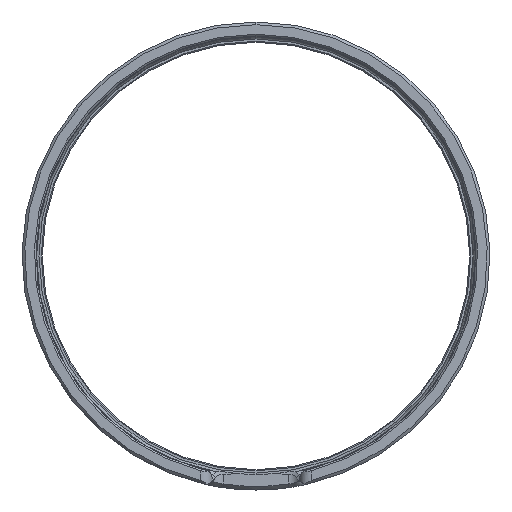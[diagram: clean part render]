
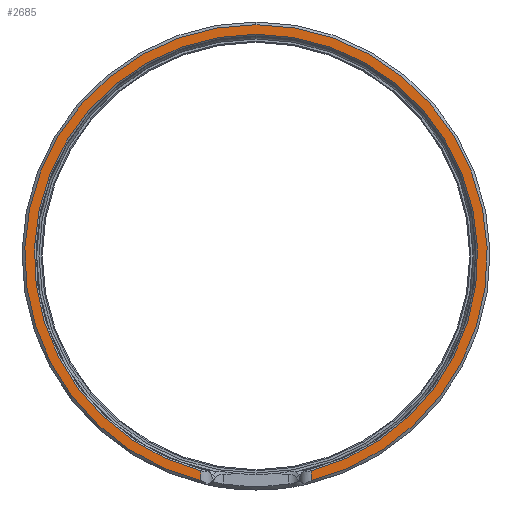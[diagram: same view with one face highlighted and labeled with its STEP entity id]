
A CAD part, left-side view. The second image highlights one B-rep face of the part: STEP entity #2685.
In plain terms, the highlighted planar face has unit normal (-1, 0, 0).
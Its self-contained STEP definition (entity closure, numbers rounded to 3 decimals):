
#24 = CARTESIAN_POINT ( 'NONE',  ( -150., 0., 0. ) ) ;
#515 = CARTESIAN_POINT ( 'NONE',  ( -150., 10.2, -39.685 ) ) ;
#768 = CARTESIAN_POINT ( 'NONE',  ( -150., 0., 42.75 ) ) ;
#899 = DIRECTION ( 'NONE',  ( -1., 0., 0. ) ) ;
#1110 = LINE ( 'NONE', #2440, #3625 ) ;
#1163 = EDGE_CURVE ( 'NONE', #3171, #3340, #1110, .T. ) ;
#1198 = EDGE_CURVE ( 'NONE', #5687, #5680, #5459, .T. ) ;
#1264 = DIRECTION ( 'NONE',  ( 0., 0., 1. ) ) ;
#1303 = DIRECTION ( 'NONE',  ( 0., 0., 1. ) ) ;
#1375 = CARTESIAN_POINT ( 'NONE',  ( -150., 0., 0. ) ) ;
#1418 = DIRECTION ( 'NONE',  ( 0., 0., -1. ) ) ;
#1686 = CARTESIAN_POINT ( 'NONE',  ( -150., 0., 0. ) ) ;
#1818 = AXIS2_PLACEMENT_3D ( 'NONE', #1686, #2985, #5760 ) ;
#2226 = CARTESIAN_POINT ( 'NONE',  ( -150., 0., 0. ) ) ;
#2375 = AXIS2_PLACEMENT_3D ( 'NONE', #1375, #4852, #1264 ) ;
#2440 = CARTESIAN_POINT ( 'NONE',  ( -150., -10.2, -43.25 ) ) ;
#2610 = ORIENTED_EDGE ( 'NONE', *, *, #3788, .F. ) ;
#2641 = CARTESIAN_POINT ( 'NONE',  ( -150., 10.2, -41.515 ) ) ;
#2685 = ADVANCED_FACE ( 'NONE', ( #5038 ), #4157, .T. ) ;
#2857 = AXIS2_PLACEMENT_3D ( 'NONE', #24, #899, #1418 ) ;
#2858 = CIRCLE ( 'NONE', #3919, 40.975 ) ;
#2959 = ORIENTED_EDGE ( 'NONE', *, *, #1198, .T. ) ;
#2985 = DIRECTION ( 'NONE',  ( -1., 0., 0. ) ) ;
#3041 = EDGE_LOOP ( 'NONE', ( #3477, #4924, #2959, #5137, #2610 ) ) ;
#3171 = VERTEX_POINT ( 'NONE', #4377 ) ;
#3188 = DIRECTION ( 'NONE',  ( 0., 0., 1. ) ) ;
#3340 = VERTEX_POINT ( 'NONE', #5640 ) ;
#3477 = ORIENTED_EDGE ( 'NONE', *, *, #1163, .F. ) ;
#3625 = VECTOR ( 'NONE', #5219, 1000. ) ;
#3640 = VECTOR ( 'NONE', #1303, 1000. ) ;
#3788 = EDGE_CURVE ( 'NONE', #3340, #5794, #2858, .T. ) ;
#3919 = AXIS2_PLACEMENT_3D ( 'NONE', #2226, #4064, #3188 ) ;
#4064 = DIRECTION ( 'NONE',  ( -1., 0., 0. ) ) ;
#4157 = PLANE ( 'NONE',  #2857 ) ;
#4377 = CARTESIAN_POINT ( 'NONE',  ( -150., -10.2, -41.515 ) ) ;
#4852 = DIRECTION ( 'NONE',  ( -1., 0., 0. ) ) ;
#4857 = EDGE_CURVE ( 'NONE', #3171, #5687, #5007, .T. ) ;
#4896 = CARTESIAN_POINT ( 'NONE',  ( -150., 10.2, -43.25 ) ) ;
#4924 = ORIENTED_EDGE ( 'NONE', *, *, #4857, .T. ) ;
#5007 = CIRCLE ( 'NONE', #1818, 42.75 ) ;
#5038 = FACE_OUTER_BOUND ( 'NONE', #3041, .T. ) ;
#5137 = ORIENTED_EDGE ( 'NONE', *, *, #5921, .T. ) ;
#5219 = DIRECTION ( 'NONE',  ( 0., 0., 1. ) ) ;
#5378 = LINE ( 'NONE', #4896, #3640 ) ;
#5459 = CIRCLE ( 'NONE', #2375, 42.75 ) ;
#5640 = CARTESIAN_POINT ( 'NONE',  ( -150., -10.2, -39.685 ) ) ;
#5680 = VERTEX_POINT ( 'NONE', #2641 ) ;
#5687 = VERTEX_POINT ( 'NONE', #768 ) ;
#5760 = DIRECTION ( 'NONE',  ( 0., 0., 1. ) ) ;
#5794 = VERTEX_POINT ( 'NONE', #515 ) ;
#5921 = EDGE_CURVE ( 'NONE', #5680, #5794, #5378, .T. ) ;
